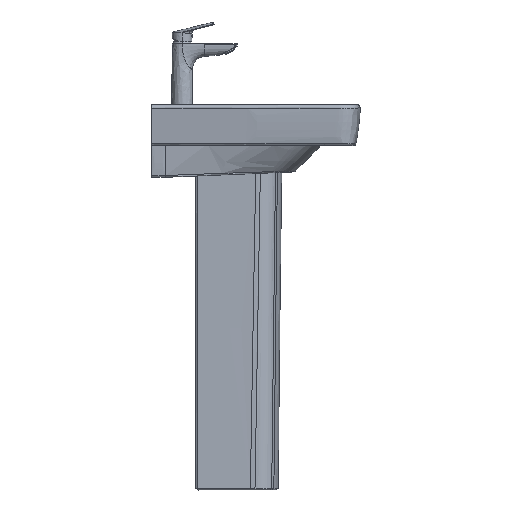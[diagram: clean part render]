
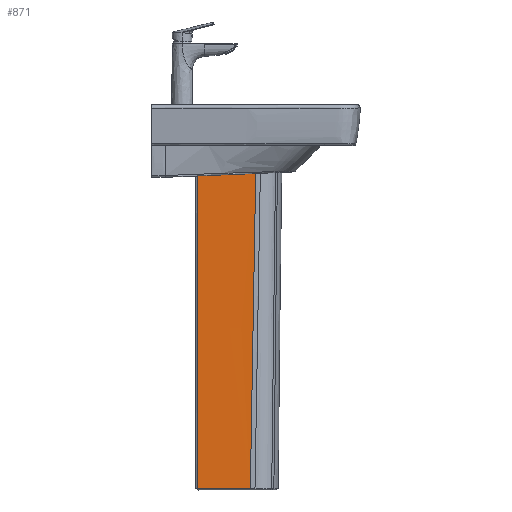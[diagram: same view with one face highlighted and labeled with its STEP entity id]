
A CAD part, left-side view. The second image highlights one B-rep face of the part: STEP entity #871.
In plain terms, the highlighted free-form (B-spline) face has degree [5, 5] with [9, 6] control points.
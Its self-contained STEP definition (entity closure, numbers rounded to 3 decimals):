
#281=B_SPLINE_SURFACE_WITH_KNOTS('',5,5,((#107838,#107839,#107840,#107841,
#107842,#107843),(#107844,#107845,#107846,#107847,#107848,#107849),(#107850,
#107851,#107852,#107853,#107854,#107855),(#107856,#107857,#107858,#107859,
#107860,#107861),(#107862,#107863,#107864,#107865,#107866,#107867),(#107868,
#107869,#107870,#107871,#107872,#107873),(#107874,#107875,#107876,#107877,
#107878,#107879),(#107880,#107881,#107882,#107883,#107884,#107885),(#107886,
#107887,#107888,#107889,#107890,#107891)),.UNSPECIFIED.,.F.,.F.,.F.,(6,
3,6),(6,6),(3.014,357.581,712.461),(-53.369,
76.24),.UNSPECIFIED.);
#871=ADVANCED_FACE('',(#1453),#281,.T.);
#1453=FACE_OUTER_BOUND('',#2058,.T.);
#2058=EDGE_LOOP('',(#4536,#4537,#4538,#4539));
#4536=ORIENTED_EDGE('',*,*,#6092,.T.);
#4537=ORIENTED_EDGE('',*,*,#6093,.F.);
#4538=ORIENTED_EDGE('',*,*,#6091,.T.);
#4539=ORIENTED_EDGE('',*,*,#6171,.T.);
#6091=EDGE_CURVE('',#8362,#8396,#7238,.T.);
#6092=EDGE_CURVE('',#8398,#8363,#7239,.T.);
#6093=EDGE_CURVE('',#8362,#8363,#7240,.T.);
#6171=EDGE_CURVE('',#8396,#8398,#7305,.T.);
#7238=B_SPLINE_CURVE_WITH_KNOTS('',5,(#110327,#110328,#110329,#110330,#110331,
#110332,#110333,#110334,#110335),.UNSPECIFIED.,.F.,.F.,(6,3,6),(-235.829,
-121.908,-56.39),.UNSPECIFIED.);
#7239=B_SPLINE_CURVE_WITH_KNOTS('',3,(#110336,#110337,#110338,#110339),
 .UNSPECIFIED.,.F.,.F.,(4,4),(0.,11.761),
 .UNSPECIFIED.);
#7240=B_SPLINE_CURVE_WITH_KNOTS('',5,(#110340,#110341,#110342,#110343,#110344,
#110345,#110346,#110347,#110348),.UNSPECIFIED.,.F.,.F.,(6,3,6),(3.014,
357.581,712.461),.UNSPECIFIED.);
#7305=B_SPLINE_CURVE_WITH_KNOTS('',3,(#110913,#110914,#110915,#110916,#110917,
#110918,#110919,#110920,#110921,#110922,#110923,#110924,#110925,#110926,
#110927,#110928,#110929,#110930),.UNSPECIFIED.,.F.,.F.,(4,2,2,2,2,2,2,2,
4),(204.347,329.724,455.101,580.479,705.856,
831.233,956.611,1081.988,1207.365),
 .UNSPECIFIED.);
#8362=VERTEX_POINT('',#109339);
#8363=VERTEX_POINT('',#109340);
#8396=VERTEX_POINT('',#109373);
#8398=VERTEX_POINT('',#109375);
#107838=CARTESIAN_POINT('',(-93.781,130.139,286.69));
#107839=CARTESIAN_POINT('',(-93.417,104.205,286.69));
#107840=CARTESIAN_POINT('',(-93.048,78.271,286.69));
#107841=CARTESIAN_POINT('',(-92.678,52.338,286.69));
#107842=CARTESIAN_POINT('',(-92.308,26.404,286.69));
#107843=CARTESIAN_POINT('',(-91.941,0.47,286.69));
#107844=CARTESIAN_POINT('',(-93.288,131.327,215.791));
#107845=CARTESIAN_POINT('',(-93.058,105.394,215.79));
#107846=CARTESIAN_POINT('',(-92.714,79.46,215.79));
#107847=CARTESIAN_POINT('',(-92.32,53.527,215.792));
#107848=CARTESIAN_POINT('',(-91.941,27.594,215.793));
#107849=CARTESIAN_POINT('',(-91.641,1.661,215.793));
#107850=CARTESIAN_POINT('',(-92.955,132.522,144.889));
#107851=CARTESIAN_POINT('',(-92.953,106.592,144.885));
#107852=CARTESIAN_POINT('',(-92.667,80.664,144.884));
#107853=CARTESIAN_POINT('',(-92.229,54.736,144.885));
#107854=CARTESIAN_POINT('',(-91.769,28.808,144.886));
#107855=CARTESIAN_POINT('',(-91.418,2.878,144.885));
#107856=CARTESIAN_POINT('',(-91.686,133.716,73.998));
#107857=CARTESIAN_POINT('',(-91.325,107.792,73.999));
#107858=CARTESIAN_POINT('',(-90.786,81.87,74.003));
#107859=CARTESIAN_POINT('',(-90.209,55.949,74.009));
#107860=CARTESIAN_POINT('',(-89.734,30.027,74.013));
#107861=CARTESIAN_POINT('',(-89.501,4.102,74.015));
#107862=CARTESIAN_POINT('',(-90.459,136.103,-67.863));
#107863=CARTESIAN_POINT('',(-90.214,110.186,-67.864));
#107864=CARTESIAN_POINT('',(-89.631,84.274,-67.861));
#107865=CARTESIAN_POINT('',(-88.912,58.364,-67.856));
#107866=CARTESIAN_POINT('',(-88.263,32.452,-67.852));
#107867=CARTESIAN_POINT('',(-87.889,6.536,-67.851));
#107868=CARTESIAN_POINT('',(-88.647,138.491,-209.717));
#107869=CARTESIAN_POINT('',(-88.201,112.581,-209.716));
#107870=CARTESIAN_POINT('',(-87.505,86.677,-209.712));
#107871=CARTESIAN_POINT('',(-86.733,60.774,-209.707));
#107872=CARTESIAN_POINT('',(-86.055,34.871,-209.702));
#107873=CARTESIAN_POINT('',(-85.645,8.963,-209.7));
#107874=CARTESIAN_POINT('',(-88.412,139.683,-280.684));
#107875=CARTESIAN_POINT('',(-88.304,113.775,-280.687));
#107876=CARTESIAN_POINT('',(-87.822,87.871,-280.689));
#107877=CARTESIAN_POINT('',(-87.139,61.97,-280.688));
#107878=CARTESIAN_POINT('',(-86.425,36.067,-280.687));
#107879=CARTESIAN_POINT('',(-85.852,10.161,-280.688));
#107880=CARTESIAN_POINT('',(-87.266,140.875,-351.639));
#107881=CARTESIAN_POINT('',(-86.948,114.966,-351.64));
#107882=CARTESIAN_POINT('',(-86.445,89.062,-351.64));
#107883=CARTESIAN_POINT('',(-85.853,63.158,-351.638));
#107884=CARTESIAN_POINT('',(-85.269,37.255,-351.637));
#107885=CARTESIAN_POINT('',(-84.79,11.35,-351.637));
#107886=CARTESIAN_POINT('',(-86.325,142.07,-422.597));
#107887=CARTESIAN_POINT('',(-85.957,116.164,-422.597));
#107888=CARTESIAN_POINT('',(-85.583,90.258,-422.597));
#107889=CARTESIAN_POINT('',(-85.206,64.352,-422.597));
#107890=CARTESIAN_POINT('',(-84.829,38.446,-422.597));
#107891=CARTESIAN_POINT('',(-84.456,12.54,-422.596));
#109339=CARTESIAN_POINT('',(-91.941,0.47,286.69));
#109340=CARTESIAN_POINT('',(-84.456,12.54,-422.596));
#109373=CARTESIAN_POINT('',(-93.781,130.139,286.682));
#109375=CARTESIAN_POINT('',(-86.155,130.13,-422.597));
#110327=CARTESIAN_POINT('',(-91.941,0.47,286.69));
#110328=CARTESIAN_POINT('',(-92.169,16.584,286.689));
#110329=CARTESIAN_POINT('',(-92.398,32.697,286.688));
#110330=CARTESIAN_POINT('',(-92.635,49.299,286.688));
#110331=CARTESIAN_POINT('',(-92.997,74.68,286.688));
#110332=CARTESIAN_POINT('',(-93.357,100.062,286.687));
#110333=CARTESIAN_POINT('',(-93.497,109.949,286.686));
#110334=CARTESIAN_POINT('',(-93.64,120.076,286.684));
#110335=CARTESIAN_POINT('',(-93.781,130.139,286.682));
#110336=CARTESIAN_POINT('',(-86.155,130.13,-422.597));
#110337=CARTESIAN_POINT('',(-85.596,90.933,-422.597));
#110338=CARTESIAN_POINT('',(-85.02,51.737,-422.596));
#110339=CARTESIAN_POINT('',(-84.456,12.54,-422.596));
#110340=CARTESIAN_POINT('',(-91.941,0.47,286.69));
#110341=CARTESIAN_POINT('',(-91.641,1.661,215.793));
#110342=CARTESIAN_POINT('',(-91.418,2.878,144.884));
#110343=CARTESIAN_POINT('',(-89.501,4.102,74.015));
#110344=CARTESIAN_POINT('',(-87.889,6.536,-67.851));
#110345=CARTESIAN_POINT('',(-85.645,8.963,-209.7));
#110346=CARTESIAN_POINT('',(-85.852,10.161,-280.688));
#110347=CARTESIAN_POINT('',(-84.79,11.35,-351.637));
#110348=CARTESIAN_POINT('',(-84.456,12.54,-422.596));
#110913=CARTESIAN_POINT('',(-93.781,130.139,286.682));
#110914=CARTESIAN_POINT('',(-93.569,130.145,257.137));
#110915=CARTESIAN_POINT('',(-93.379,130.152,227.589));
#110916=CARTESIAN_POINT('',(-92.877,130.157,168.493));
#110917=CARTESIAN_POINT('',(-92.57,130.156,138.946));
#110918=CARTESIAN_POINT('',(-91.896,130.148,79.854));
#110919=CARTESIAN_POINT('',(-91.537,130.144,50.3));
#110920=CARTESIAN_POINT('',(-90.862,130.137,-8.934));
#110921=CARTESIAN_POINT('',(-90.556,130.136,-38.558));
#110922=CARTESIAN_POINT('',(-89.905,130.132,-97.573));
#110923=CARTESIAN_POINT('',(-89.558,130.129,-127.134));
#110924=CARTESIAN_POINT('',(-88.937,130.129,-186.224));
#110925=CARTESIAN_POINT('',(-88.657,130.131,-215.751));
#110926=CARTESIAN_POINT('',(-88.067,130.134,-274.91));
#110927=CARTESIAN_POINT('',(-87.748,130.135,-304.575));
#110928=CARTESIAN_POINT('',(-86.995,130.133,-363.835));
#110929=CARTESIAN_POINT('',(-86.538,130.13,-394.496));
#110930=CARTESIAN_POINT('',(-86.155,130.13,-422.597));
